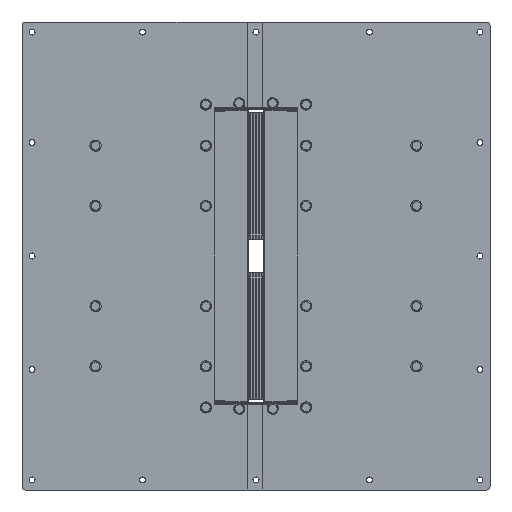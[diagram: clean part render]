
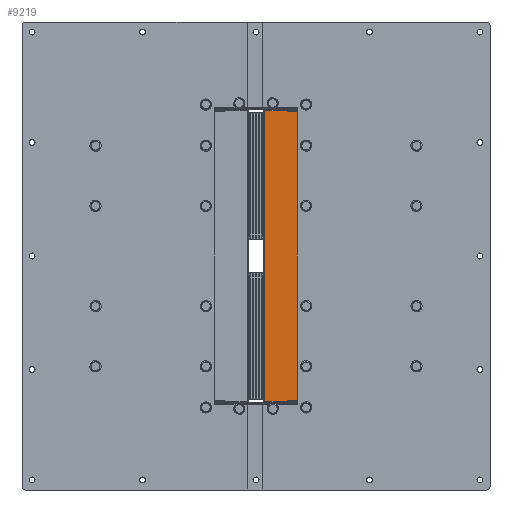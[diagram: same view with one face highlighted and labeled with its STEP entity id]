
A CAD part, left-side view. The second image highlights one B-rep face of the part: STEP entity #9219.
In plain terms, the highlighted planar face has unit normal (-1, 0, 0).
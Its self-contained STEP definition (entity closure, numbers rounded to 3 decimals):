
#8285=AXIS2_PLACEMENT_3D('Plane Axis2P3D',#8282,#8283,#8284) ;
#8419=AXIS2_PLACEMENT_3D('Circle Axis2P3D',#8417,#8418,$) ;
#8481=AXIS2_PLACEMENT_3D('Circle Axis2P3D',#8479,#8480,$) ;
#8757=AXIS2_PLACEMENT_3D('Circle Axis2P3D',#8755,#8756,$) ;
#8805=AXIS2_PLACEMENT_3D('Circle Axis2P3D',#8803,#8804,$) ;
#9113=AXIS2_PLACEMENT_3D('Circle Axis2P3D',#9111,#9112,$) ;
#9122=AXIS2_PLACEMENT_3D('Circle Axis2P3D',#9120,#9121,$) ;
#9131=AXIS2_PLACEMENT_3D('Circle Axis2P3D',#9129,#9130,$) ;
#9140=AXIS2_PLACEMENT_3D('Circle Axis2P3D',#9138,#9139,$) ;
#9149=AXIS2_PLACEMENT_3D('Circle Axis2P3D',#9147,#9148,$) ;
#9158=AXIS2_PLACEMENT_3D('Circle Axis2P3D',#9156,#9157,$) ;
#9167=AXIS2_PLACEMENT_3D('Circle Axis2P3D',#9165,#9166,$) ;
#9176=AXIS2_PLACEMENT_3D('Circle Axis2P3D',#9174,#9175,$) ;
#9185=AXIS2_PLACEMENT_3D('Circle Axis2P3D',#9183,#9184,$) ;
#9194=AXIS2_PLACEMENT_3D('Circle Axis2P3D',#9192,#9193,$) ;
#9203=AXIS2_PLACEMENT_3D('Circle Axis2P3D',#9201,#9202,$) ;
#9212=AXIS2_PLACEMENT_3D('Circle Axis2P3D',#9210,#9211,$) ;
#8282=CARTESIAN_POINT('Axis2P3D Location',(0.,0.,0.)) ;
#8323=CARTESIAN_POINT('Vertex',(0.,-60.,218.5)) ;
#8328=CARTESIAN_POINT('Line Origine',(0.,-60.,229.25)) ;
#8332=CARTESIAN_POINT('Vertex',(0.,-60.,240.)) ;
#8386=CARTESIAN_POINT('Line Origine',(0.,-69.,240.)) ;
#8390=CARTESIAN_POINT('Vertex',(0.,-78.,240.)) ;
#8417=CARTESIAN_POINT('Axis2P3D Location',(0.,-78.,235.)) ;
#8421=CARTESIAN_POINT('Vertex',(0.,-83.,235.)) ;
#8448=CARTESIAN_POINT('Line Origine',(0.,-83.,0.)) ;
#8452=CARTESIAN_POINT('Vertex',(0.,-83.,-235.)) ;
#8479=CARTESIAN_POINT('Axis2P3D Location',(0.,-78.,-235.)) ;
#8483=CARTESIAN_POINT('Vertex',(0.,-78.,-240.)) ;
#8510=CARTESIAN_POINT('Line Origine',(0.,-69.,-240.)) ;
#8514=CARTESIAN_POINT('Vertex',(0.,-60.,-240.)) ;
#8536=CARTESIAN_POINT('Line Origine',(0.,-60.,-229.25)) ;
#8540=CARTESIAN_POINT('Vertex',(0.,-60.,-218.5)) ;
#8580=CARTESIAN_POINT('Vertex',(0.,-57.5,217.)) ;
#8583=CARTESIAN_POINT('Line Origine',(0.,-57.5,217.75)) ;
#8587=CARTESIAN_POINT('Vertex',(0.,-57.5,218.5)) ;
#8618=CARTESIAN_POINT('Vertex',(0.,-13.22,217.)) ;
#8621=CARTESIAN_POINT('Line Origine',(0.,-35.36,217.)) ;
#8752=CARTESIAN_POINT('Vertex',(0.,-12.72,216.5)) ;
#8755=CARTESIAN_POINT('Axis2P3D Location',(0.,-13.22,216.5)) ;
#8776=CARTESIAN_POINT('Vertex',(0.,-12.72,-216.5)) ;
#8779=CARTESIAN_POINT('Line Origine',(0.,-12.72,0.)) ;
#8800=CARTESIAN_POINT('Vertex',(0.,-13.22,-217.)) ;
#8803=CARTESIAN_POINT('Axis2P3D Location',(0.,-13.22,-216.5)) ;
#8824=CARTESIAN_POINT('Vertex',(0.,-57.5,-217.)) ;
#8827=CARTESIAN_POINT('Line Origine',(0.,-35.36,-217.)) ;
#8843=CARTESIAN_POINT('Vertex',(0.,-57.5,-218.5)) ;
#8846=CARTESIAN_POINT('Line Origine',(0.,-57.5,-217.75)) ;
#8885=CARTESIAN_POINT('Line Origine',(0.,-58.75,-218.5)) ;
#8946=CARTESIAN_POINT('Line Origine',(0.,-58.75,218.5)) ;
#9111=CARTESIAN_POINT('Axis2P3D Location',(0.,-73.5,165.)) ;
#9115=CARTESIAN_POINT('Vertex',(0.,-79.,165.)) ;
#9117=CARTESIAN_POINT('Vertex',(0.,-68.,165.)) ;
#9120=CARTESIAN_POINT('Axis2P3D Location',(0.,-73.5,165.)) ;
#9129=CARTESIAN_POINT('Axis2P3D Location',(0.,-73.5,75.)) ;
#9133=CARTESIAN_POINT('Vertex',(0.,-79.,75.)) ;
#9135=CARTESIAN_POINT('Vertex',(0.,-68.,75.)) ;
#9138=CARTESIAN_POINT('Axis2P3D Location',(0.,-73.5,75.)) ;
#9147=CARTESIAN_POINT('Axis2P3D Location',(0.,-73.5,-75.)) ;
#9151=CARTESIAN_POINT('Vertex',(0.,-79.,-75.)) ;
#9153=CARTESIAN_POINT('Vertex',(0.,-68.,-75.)) ;
#9156=CARTESIAN_POINT('Axis2P3D Location',(0.,-73.5,-75.)) ;
#9165=CARTESIAN_POINT('Axis2P3D Location',(0.,-73.5,-165.)) ;
#9169=CARTESIAN_POINT('Vertex',(0.,-79.,-165.)) ;
#9171=CARTESIAN_POINT('Vertex',(0.,-68.,-165.)) ;
#9174=CARTESIAN_POINT('Axis2P3D Location',(0.,-73.5,-165.)) ;
#9183=CARTESIAN_POINT('Axis2P3D Location',(0.,-73.5,226.5)) ;
#9187=CARTESIAN_POINT('Vertex',(0.,-79.,226.5)) ;
#9189=CARTESIAN_POINT('Vertex',(0.,-68.,226.5)) ;
#9192=CARTESIAN_POINT('Axis2P3D Location',(0.,-73.5,226.5)) ;
#9201=CARTESIAN_POINT('Axis2P3D Location',(0.,-73.5,-226.5)) ;
#9205=CARTESIAN_POINT('Vertex',(0.,-79.,-226.5)) ;
#9207=CARTESIAN_POINT('Vertex',(0.,-68.,-226.5)) ;
#9210=CARTESIAN_POINT('Axis2P3D Location',(0.,-73.5,-226.5)) ;
#8283=DIRECTION('Axis2P3D Direction',(1.,0.,0.)) ;
#8284=DIRECTION('Axis2P3D XDirection',(0.,1.,0.)) ;
#8329=DIRECTION('Vector Direction',(0.,0.,-1.)) ;
#8387=DIRECTION('Vector Direction',(0.,-1.,0.)) ;
#8418=DIRECTION('Axis2P3D Direction',(1.,0.,0.)) ;
#8449=DIRECTION('Vector Direction',(0.,0.,1.)) ;
#8480=DIRECTION('Axis2P3D Direction',(1.,0.,0.)) ;
#8511=DIRECTION('Vector Direction',(0.,1.,0.)) ;
#8537=DIRECTION('Vector Direction',(0.,0.,-1.)) ;
#8584=DIRECTION('Vector Direction',(0.,0.,-1.)) ;
#8622=DIRECTION('Vector Direction',(0.,1.,0.)) ;
#8756=DIRECTION('Axis2P3D Direction',(1.,0.,0.)) ;
#8780=DIRECTION('Vector Direction',(0.,0.,1.)) ;
#8804=DIRECTION('Axis2P3D Direction',(1.,0.,0.)) ;
#8828=DIRECTION('Vector Direction',(0.,-1.,0.)) ;
#8847=DIRECTION('Vector Direction',(0.,0.,-1.)) ;
#8886=DIRECTION('Vector Direction',(0.,1.,0.)) ;
#8947=DIRECTION('Vector Direction',(0.,-1.,0.)) ;
#9112=DIRECTION('Axis2P3D Direction',(1.,0.,0.)) ;
#9121=DIRECTION('Axis2P3D Direction',(1.,0.,0.)) ;
#9130=DIRECTION('Axis2P3D Direction',(1.,0.,0.)) ;
#9139=DIRECTION('Axis2P3D Direction',(1.,0.,0.)) ;
#9148=DIRECTION('Axis2P3D Direction',(1.,0.,0.)) ;
#9157=DIRECTION('Axis2P3D Direction',(1.,0.,0.)) ;
#9166=DIRECTION('Axis2P3D Direction',(1.,0.,0.)) ;
#9175=DIRECTION('Axis2P3D Direction',(1.,0.,0.)) ;
#9184=DIRECTION('Axis2P3D Direction',(1.,0.,0.)) ;
#9193=DIRECTION('Axis2P3D Direction',(1.,0.,0.)) ;
#9202=DIRECTION('Axis2P3D Direction',(1.,0.,0.)) ;
#9211=DIRECTION('Axis2P3D Direction',(1.,0.,0.)) ;
#8330=VECTOR('Line Direction',#8329,1.) ;
#8388=VECTOR('Line Direction',#8387,1.) ;
#8450=VECTOR('Line Direction',#8449,1.) ;
#8512=VECTOR('Line Direction',#8511,1.) ;
#8538=VECTOR('Line Direction',#8537,1.) ;
#8585=VECTOR('Line Direction',#8584,1.) ;
#8623=VECTOR('Line Direction',#8622,1.) ;
#8781=VECTOR('Line Direction',#8780,1.) ;
#8829=VECTOR('Line Direction',#8828,1.) ;
#8848=VECTOR('Line Direction',#8847,1.) ;
#8887=VECTOR('Line Direction',#8886,1.) ;
#8948=VECTOR('Line Direction',#8947,1.) ;
#9094=ORIENTED_EDGE('',*,*,#8589,.T.) ;
#9095=ORIENTED_EDGE('',*,*,#8625,.T.) ;
#9096=ORIENTED_EDGE('',*,*,#8759,.T.) ;
#9097=ORIENTED_EDGE('',*,*,#8783,.T.) ;
#9098=ORIENTED_EDGE('',*,*,#8807,.T.) ;
#9099=ORIENTED_EDGE('',*,*,#8831,.T.) ;
#9100=ORIENTED_EDGE('',*,*,#8850,.T.) ;
#9101=ORIENTED_EDGE('',*,*,#8889,.F.) ;
#9102=ORIENTED_EDGE('',*,*,#8542,.F.) ;
#9103=ORIENTED_EDGE('',*,*,#8516,.F.) ;
#9104=ORIENTED_EDGE('',*,*,#8485,.F.) ;
#9105=ORIENTED_EDGE('',*,*,#8454,.F.) ;
#9106=ORIENTED_EDGE('',*,*,#8423,.F.) ;
#9107=ORIENTED_EDGE('',*,*,#8392,.F.) ;
#9108=ORIENTED_EDGE('',*,*,#8334,.F.) ;
#9109=ORIENTED_EDGE('',*,*,#8950,.F.) ;
#9126=ORIENTED_EDGE('',*,*,#9119,.T.) ;
#9127=ORIENTED_EDGE('',*,*,#9124,.T.) ;
#9144=ORIENTED_EDGE('',*,*,#9137,.T.) ;
#9145=ORIENTED_EDGE('',*,*,#9142,.T.) ;
#9162=ORIENTED_EDGE('',*,*,#9155,.T.) ;
#9163=ORIENTED_EDGE('',*,*,#9160,.T.) ;
#9180=ORIENTED_EDGE('',*,*,#9173,.T.) ;
#9181=ORIENTED_EDGE('',*,*,#9178,.T.) ;
#9198=ORIENTED_EDGE('',*,*,#9191,.T.) ;
#9199=ORIENTED_EDGE('',*,*,#9196,.T.) ;
#9216=ORIENTED_EDGE('',*,*,#9209,.T.) ;
#9217=ORIENTED_EDGE('',*,*,#9214,.T.) ;
#9128=FACE_BOUND('',#9125,.T.) ;
#9146=FACE_BOUND('',#9143,.T.) ;
#9164=FACE_BOUND('',#9161,.T.) ;
#9182=FACE_BOUND('',#9179,.T.) ;
#9200=FACE_BOUND('',#9197,.T.) ;
#9218=FACE_BOUND('',#9215,.T.) ;
#9219=ADVANCED_FACE('Laterale(L3)',(#9110,#9128,#9146,#9164,#9182,#9200,#9218),#8286,.F.) ;
#8420=CIRCLE('generated circle',#8419,5.) ;
#8482=CIRCLE('generated circle',#8481,5.) ;
#8758=CIRCLE('generated circle',#8757,0.5) ;
#8806=CIRCLE('generated circle',#8805,0.5) ;
#9114=CIRCLE('generated circle',#9113,5.5) ;
#9123=CIRCLE('generated circle',#9122,5.5) ;
#9132=CIRCLE('generated circle',#9131,5.5) ;
#9141=CIRCLE('generated circle',#9140,5.5) ;
#9150=CIRCLE('generated circle',#9149,5.5) ;
#9159=CIRCLE('generated circle',#9158,5.5) ;
#9168=CIRCLE('generated circle',#9167,5.5) ;
#9177=CIRCLE('generated circle',#9176,5.5) ;
#9186=CIRCLE('generated circle',#9185,5.5) ;
#9195=CIRCLE('generated circle',#9194,5.5) ;
#9204=CIRCLE('generated circle',#9203,5.5) ;
#9213=CIRCLE('generated circle',#9212,5.5) ;
#8334=EDGE_CURVE('',#8324,#8333,#8331,.F.) ;
#8392=EDGE_CURVE('',#8333,#8391,#8389,.T.) ;
#8423=EDGE_CURVE('',#8391,#8422,#8420,.T.) ;
#8454=EDGE_CURVE('',#8422,#8453,#8451,.F.) ;
#8485=EDGE_CURVE('',#8453,#8484,#8482,.T.) ;
#8516=EDGE_CURVE('',#8484,#8515,#8513,.T.) ;
#8542=EDGE_CURVE('',#8515,#8541,#8539,.F.) ;
#8589=EDGE_CURVE('',#8588,#8581,#8586,.T.) ;
#8625=EDGE_CURVE('',#8581,#8619,#8624,.T.) ;
#8759=EDGE_CURVE('',#8619,#8753,#8758,.F.) ;
#8783=EDGE_CURVE('',#8753,#8777,#8782,.F.) ;
#8807=EDGE_CURVE('',#8777,#8801,#8806,.F.) ;
#8831=EDGE_CURVE('',#8801,#8825,#8830,.T.) ;
#8850=EDGE_CURVE('',#8825,#8844,#8849,.T.) ;
#8889=EDGE_CURVE('',#8541,#8844,#8888,.T.) ;
#8950=EDGE_CURVE('',#8588,#8324,#8949,.T.) ;
#9119=EDGE_CURVE('',#9116,#9118,#9114,.T.) ;
#9124=EDGE_CURVE('',#9118,#9116,#9123,.T.) ;
#9137=EDGE_CURVE('',#9134,#9136,#9132,.T.) ;
#9142=EDGE_CURVE('',#9136,#9134,#9141,.T.) ;
#9155=EDGE_CURVE('',#9152,#9154,#9150,.T.) ;
#9160=EDGE_CURVE('',#9154,#9152,#9159,.T.) ;
#9173=EDGE_CURVE('',#9170,#9172,#9168,.T.) ;
#9178=EDGE_CURVE('',#9172,#9170,#9177,.T.) ;
#9191=EDGE_CURVE('',#9188,#9190,#9186,.T.) ;
#9196=EDGE_CURVE('',#9190,#9188,#9195,.T.) ;
#9209=EDGE_CURVE('',#9206,#9208,#9204,.T.) ;
#9214=EDGE_CURVE('',#9208,#9206,#9213,.T.) ;
#9093=EDGE_LOOP('',(#9094,#9095,#9096,#9097,#9098,#9099,#9100,#9101,#9102,#9103,#9104,#9105,#9106,#9107,#9108,#9109)) ;
#9125=EDGE_LOOP('',(#9126,#9127)) ;
#9143=EDGE_LOOP('',(#9144,#9145)) ;
#9161=EDGE_LOOP('',(#9162,#9163)) ;
#9179=EDGE_LOOP('',(#9180,#9181)) ;
#9197=EDGE_LOOP('',(#9198,#9199)) ;
#9215=EDGE_LOOP('',(#9216,#9217)) ;
#9110=FACE_OUTER_BOUND('',#9093,.T.) ;
#8331=LINE('Line',#8328,#8330) ;
#8389=LINE('Line',#8386,#8388) ;
#8451=LINE('Line',#8448,#8450) ;
#8513=LINE('Line',#8510,#8512) ;
#8539=LINE('Line',#8536,#8538) ;
#8586=LINE('Line',#8583,#8585) ;
#8624=LINE('Line',#8621,#8623) ;
#8782=LINE('Line',#8779,#8781) ;
#8830=LINE('Line',#8827,#8829) ;
#8849=LINE('Line',#8846,#8848) ;
#8888=LINE('Line',#8885,#8887) ;
#8949=LINE('Line',#8946,#8948) ;
#8286=PLANE('',#8285) ;
#8324=VERTEX_POINT('',#8323) ;
#8333=VERTEX_POINT('',#8332) ;
#8391=VERTEX_POINT('',#8390) ;
#8422=VERTEX_POINT('',#8421) ;
#8453=VERTEX_POINT('',#8452) ;
#8484=VERTEX_POINT('',#8483) ;
#8515=VERTEX_POINT('',#8514) ;
#8541=VERTEX_POINT('',#8540) ;
#8581=VERTEX_POINT('',#8580) ;
#8588=VERTEX_POINT('',#8587) ;
#8619=VERTEX_POINT('',#8618) ;
#8753=VERTEX_POINT('',#8752) ;
#8777=VERTEX_POINT('',#8776) ;
#8801=VERTEX_POINT('',#8800) ;
#8825=VERTEX_POINT('',#8824) ;
#8844=VERTEX_POINT('',#8843) ;
#9116=VERTEX_POINT('',#9115) ;
#9118=VERTEX_POINT('',#9117) ;
#9134=VERTEX_POINT('',#9133) ;
#9136=VERTEX_POINT('',#9135) ;
#9152=VERTEX_POINT('',#9151) ;
#9154=VERTEX_POINT('',#9153) ;
#9170=VERTEX_POINT('',#9169) ;
#9172=VERTEX_POINT('',#9171) ;
#9188=VERTEX_POINT('',#9187) ;
#9190=VERTEX_POINT('',#9189) ;
#9206=VERTEX_POINT('',#9205) ;
#9208=VERTEX_POINT('',#9207) ;
